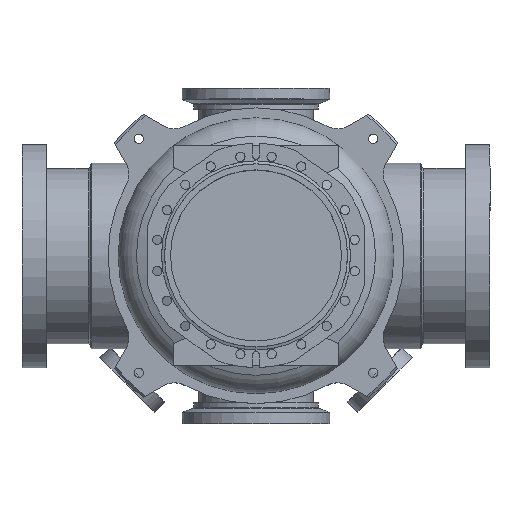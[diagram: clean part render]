
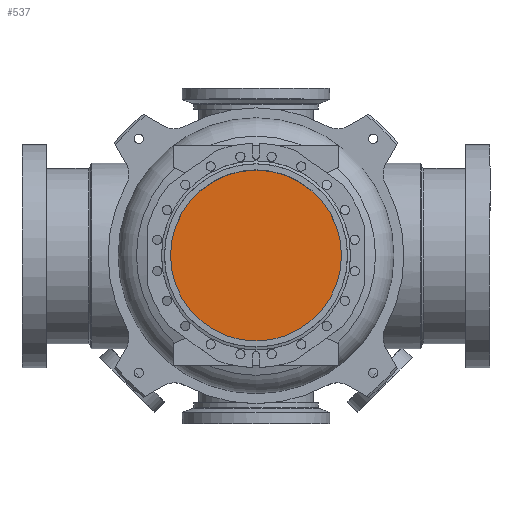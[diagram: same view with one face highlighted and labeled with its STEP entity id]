
A CAD part, top view. The second image highlights one B-rep face of the part: STEP entity #537.
In plain terms, the highlighted planar face has unit normal (0, 0, 1).
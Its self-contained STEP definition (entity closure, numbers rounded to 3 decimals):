
#350=FACE_OUTER_BOUND('',#1973,.T.);
#441=PLANE('',#5171);
#537=ADVANCED_FACE('',(#350),#441,.T.);
#1973=EDGE_LOOP('',(#2658));
#2658=ORIENTED_EDGE('',*,*,#4252,.T.);
#3769=VERTEX_POINT('',#7409);
#4252=EDGE_CURVE('',#3769,#3769,#4806,.T.);
#4806=CIRCLE('',#5170,89.);
#5170=AXIS2_PLACEMENT_3D('',#7408,#5884,#5885);
#5171=AXIS2_PLACEMENT_3D('',#7410,#5886,#5887);
#5884=DIRECTION('',(0.,0.,1.));
#5885=DIRECTION('',(1.,0.,0.));
#5886=DIRECTION('',(0.,0.,1.));
#5887=DIRECTION('',(1.,0.,0.));
#7408=CARTESIAN_POINT('',(0.,0.,-272.));
#7409=CARTESIAN_POINT('',(89.,0.,-272.));
#7410=CARTESIAN_POINT('',(90.,0.,-272.));
